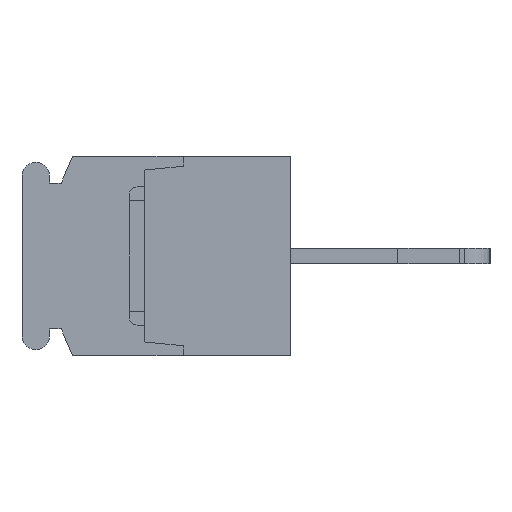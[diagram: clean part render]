
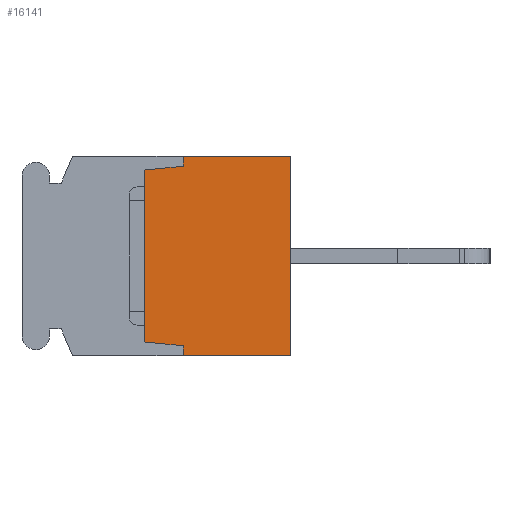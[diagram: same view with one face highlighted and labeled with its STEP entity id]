
A CAD part, left-side view. The second image highlights one B-rep face of the part: STEP entity #16141.
In plain terms, the highlighted planar face has unit normal (-1, 0, 0).
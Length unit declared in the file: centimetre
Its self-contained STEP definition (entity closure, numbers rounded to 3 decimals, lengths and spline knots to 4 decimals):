
#1197=VECTOR('',#17990,1.);
#1222=VECTOR('',#18016,1.);
#1276=VECTOR('',#18086,1.);
#2009=VECTOR('',#19885,1.);
#2010=VECTOR('',#19886,1.);
#2011=VECTOR('',#19887,1.);
#2012=VECTOR('',#19888,1.);
#2013=VECTOR('',#19889,1.);
#3007=LINE('',#22499,#1197);
#3032=LINE('',#22548,#1222);
#3086=LINE('',#22659,#1276);
#3819=LINE('',#25016,#2009);
#3820=LINE('',#25018,#2010);
#3821=LINE('',#25020,#2011);
#3822=LINE('',#25022,#2012);
#3823=LINE('',#25024,#2013);
#4813=VERTEX_POINT('',#22496);
#4814=VERTEX_POINT('',#22498);
#4838=VERTEX_POINT('',#22549);
#4882=VERTEX_POINT('',#22658);
#5567=VERTEX_POINT('',#25017);
#5568=VERTEX_POINT('',#25019);
#5569=VERTEX_POINT('',#25021);
#5570=VERTEX_POINT('',#25023);
#6938=EDGE_CURVE('',#4814,#4813,#3007,.T.);
#6963=EDGE_CURVE('',#4813,#4838,#3032,.T.);
#7019=EDGE_CURVE('',#4882,#4814,#3086,.T.);
#8080=EDGE_CURVE('',#5567,#4882,#3819,.T.);
#8081=EDGE_CURVE('',#5568,#5567,#3820,.T.);
#8082=EDGE_CURVE('',#5569,#5568,#3821,.T.);
#8083=EDGE_CURVE('',#5570,#5569,#3822,.T.);
#8084=EDGE_CURVE('',#4838,#5570,#3823,.T.);
#12390=ORIENTED_EDGE('',*,*,#6938,.F.);
#12391=ORIENTED_EDGE('',*,*,#7019,.F.);
#12392=ORIENTED_EDGE('',*,*,#8080,.F.);
#12393=ORIENTED_EDGE('',*,*,#8081,.F.);
#12394=ORIENTED_EDGE('',*,*,#8082,.F.);
#12395=ORIENTED_EDGE('',*,*,#8083,.F.);
#12396=ORIENTED_EDGE('',*,*,#8084,.F.);
#12397=ORIENTED_EDGE('',*,*,#6963,.F.);
#14210=EDGE_LOOP('',(#12390,#12391,#12392,#12393,#12394,#12395,#12396,#12397));
#15222=FACE_BOUND('',#14210,.T.);
#16141=ADVANCED_FACE('',(#15222),#16873,.F.);
#16873=PLANE('',#27491);
#17990=DIRECTION('',(0.,0.,-1.));
#18016=DIRECTION('',(0.,1.,0.));
#18086=DIRECTION('',(0.,-1.,0.));
#19884=DIRECTION('',(1.,0.,0.));
#19885=DIRECTION('',(0.,0.,1.));
#19886=DIRECTION('',(0.,-0.995,0.1));
#19887=DIRECTION('',(0.,0.,1.));
#19888=DIRECTION('',(0.,0.995,0.1));
#19889=DIRECTION('',(0.,0.,1.));
#22496=CARTESIAN_POINT('',(-1.84,0.,-0.65));
#22498=CARTESIAN_POINT('',(-1.84,0.,0.65));
#22499=CARTESIAN_POINT('',(-1.84,0.,0.65));
#22548=CARTESIAN_POINT('',(-1.84,0.,-0.65));
#22549=CARTESIAN_POINT('',(-1.84,0.7,-0.65));
#22658=CARTESIAN_POINT('',(-1.84,0.7,0.65));
#22659=CARTESIAN_POINT('',(-1.84,0.7,0.65));
#25015=CARTESIAN_POINT('',(-1.84,0.4626,0.));
#25016=CARTESIAN_POINT('',(-1.84,0.7,0.585));
#25017=CARTESIAN_POINT('',(-1.84,0.7,0.585));
#25018=CARTESIAN_POINT('',(-1.84,0.95,0.56));
#25019=CARTESIAN_POINT('',(-1.84,0.95,0.56));
#25020=CARTESIAN_POINT('',(-1.84,0.95,-0.56));
#25021=CARTESIAN_POINT('',(-1.84,0.95,-0.56));
#25022=CARTESIAN_POINT('',(-1.84,0.7,-0.585));
#25023=CARTESIAN_POINT('',(-1.84,0.7,-0.585));
#25024=CARTESIAN_POINT('',(-1.84,0.7,-0.65));
#27491=AXIS2_PLACEMENT_3D('',#25015,#19884,$);
